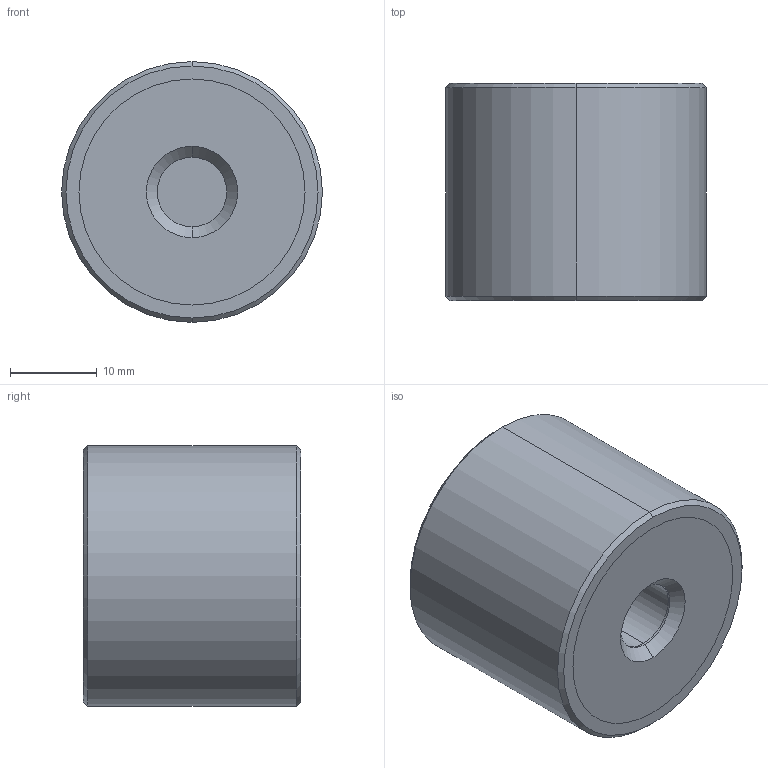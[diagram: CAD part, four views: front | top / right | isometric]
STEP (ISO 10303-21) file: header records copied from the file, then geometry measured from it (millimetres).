
FILE_DESCRIPTION (( 'STEP AP203' ), '1' );
FILE_NAME ('61080.W0302.step', '2018-07-16T20:43:57', ( '' ), ( '' ), 'SwSTEP 2.0', 'SolidWorks 2017', '' );
FILE_SCHEMA (( 'CONFIG_CONTROL_DESIGN' ));
Length unit declared in the file: millimetre
Products named in the file (4): Part2_61080.W0302; 61080.W0302; Part1_61080.W0302; Part3_61080.W0302
Assembly tree (3 placements, depth 2):
  61080.W0302
    Part1_61080.W0302
    Part2_61080.W0302
    Part3_61080.W0302
Bounding box: 30 x 25 x 30 mm (x, y, z)
Volume: 16800.6 mm3; surface area: 6496.2 mm2
Topology: 3 solids, 3 shells, 36 faces, 70 edges, 44 vertices
Faces by surface type: cylinder 18, plane 10, cone 8
Entity records: 1356 total; most frequent: DIRECTION 198, CARTESIAN_POINT 156, ORIENTED_EDGE 140, AXIS2_PLACEMENT_3D 86, EDGE_CURVE 70, EDGE_LOOP 44, VERTEX_POINT 44, CIRCLE 44
